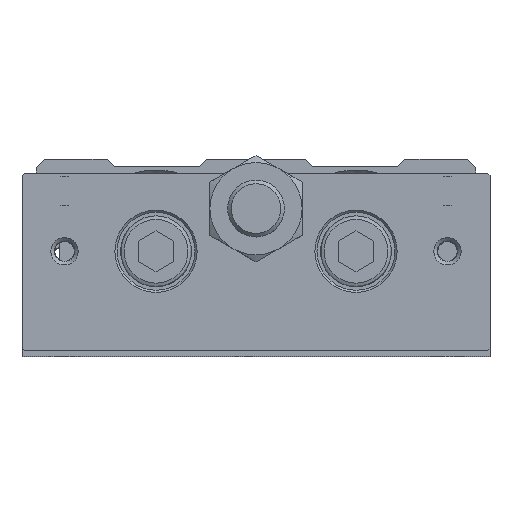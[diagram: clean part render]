
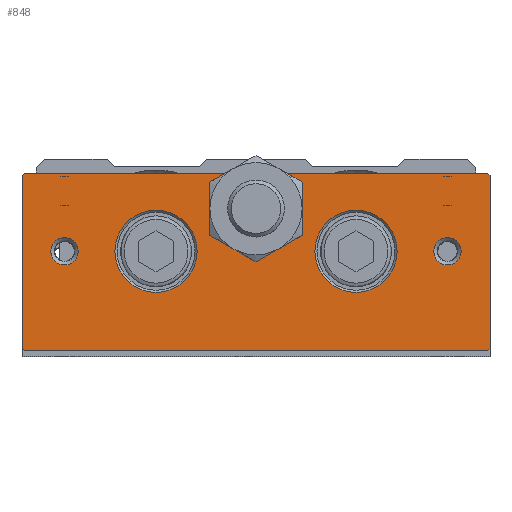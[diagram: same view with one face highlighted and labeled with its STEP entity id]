
A CAD part, top view. The second image highlights one B-rep face of the part: STEP entity #848.
In plain terms, the highlighted planar face has unit normal (0, 0, 1).
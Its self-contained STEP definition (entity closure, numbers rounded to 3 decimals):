
#629=CARTESIAN_POINT('',(-32.7,-14.5,270.));
#630=VERTEX_POINT('',#629);
#637=CARTESIAN_POINT('',(-33.0,-14.2,270.));
#638=VERTEX_POINT('',#637);
#639=CARTESIAN_POINT('',(-32.7,-14.5,270.));
#640=DIRECTION('',(-0.707,0.707,0.0));
#641=VECTOR('',#640,0.424);
#642=LINE('',#639,#641);
#643=EDGE_CURVE('',#630,#638,#642,.T.);
#660=CARTESIAN_POINT('',(-33.0,10.2,270.));
#661=VERTEX_POINT('',#660);
#662=CARTESIAN_POINT('',(-33.0,10.2,270.));
#663=DIRECTION('',(0.0,-1.0,0.0));
#664=VECTOR('',#663,24.4);
#665=LINE('',#662,#664);
#666=EDGE_CURVE('',#661,#638,#665,.T.);
#696=CARTESIAN_POINT('',(0.0,-14.5,270.));
#697=DIRECTION('',(0.0,0.0,1.0));
#698=DIRECTION('',(1.0,0.0,0.0));
#699=AXIS2_PLACEMENT_3D('',#696,#697,#698);
#700=PLANE('',#699);
#701=ORIENTED_EDGE('',*,*,#643,.F.);
#702=CARTESIAN_POINT('',(32.7,-14.5,270.));
#703=VERTEX_POINT('',#702);
#704=CARTESIAN_POINT('',(-32.7,-14.5,270.));
#705=DIRECTION('',(1.0,0.0,0.0));
#706=VECTOR('',#705,65.4);
#707=LINE('',#704,#706);
#708=EDGE_CURVE('',#630,#703,#707,.T.);
#709=ORIENTED_EDGE('',*,*,#708,.T.);
#710=CARTESIAN_POINT('',(33.0,-14.2,270.));
#711=VERTEX_POINT('',#710);
#712=CARTESIAN_POINT('',(33.0,-14.2,270.));
#713=DIRECTION('',(-0.707,-0.707,0.0));
#714=VECTOR('',#713,0.424);
#715=LINE('',#712,#714);
#716=EDGE_CURVE('',#711,#703,#715,.T.);
#717=ORIENTED_EDGE('',*,*,#716,.F.);
#718=CARTESIAN_POINT('',(33.0,10.2,270.));
#719=VERTEX_POINT('',#718);
#720=CARTESIAN_POINT('',(33.0,-14.2,270.));
#721=DIRECTION('',(0.0,1.0,0.0));
#722=VECTOR('',#721,24.4);
#723=LINE('',#720,#722);
#724=EDGE_CURVE('',#711,#719,#723,.T.);
#725=ORIENTED_EDGE('',*,*,#724,.T.);
#726=CARTESIAN_POINT('',(32.7,10.5,270.));
#727=VERTEX_POINT('',#726);
#728=CARTESIAN_POINT('',(32.7,10.5,270.));
#729=DIRECTION('',(0.707,-0.707,0.0));
#730=VECTOR('',#729,0.424);
#731=LINE('',#728,#730);
#732=EDGE_CURVE('',#727,#719,#731,.T.);
#733=ORIENTED_EDGE('',*,*,#732,.F.);
#734=CARTESIAN_POINT('',(4.153,10.5,270.));
#735=VERTEX_POINT('',#734);
#736=CARTESIAN_POINT('',(32.7,10.5,270.));
#737=DIRECTION('',(-1.0,0.0,0.0));
#738=VECTOR('',#737,28.547);
#739=LINE('',#736,#738);
#740=EDGE_CURVE('',#727,#735,#739,.T.);
#741=ORIENTED_EDGE('',*,*,#740,.T.);
#742=CARTESIAN_POINT('',(6.5,5.5,270.));
#743=VERTEX_POINT('',#742);
#744=CARTESIAN_POINT('',(0.0,5.5,270.));
#745=DIRECTION('',(0.0,0.0,1.0));
#746=DIRECTION('',(0.0,1.0,0.0));
#747=AXIS2_PLACEMENT_3D('',#744,#745,#746);
#748=CIRCLE('',#747,6.5);
#749=EDGE_CURVE('',#743,#735,#748,.T.);
#750=ORIENTED_EDGE('',*,*,#749,.F.);
#751=CARTESIAN_POINT('',(3.25,-0.129,270.));
#752=VERTEX_POINT('',#751);
#753=CARTESIAN_POINT('',(0.0,5.5,270.));
#754=DIRECTION('',(0.0,0.0,1.0));
#755=DIRECTION('',(0.0,1.0,0.0));
#756=AXIS2_PLACEMENT_3D('',#753,#754,#755);
#757=CIRCLE('',#756,6.5);
#758=EDGE_CURVE('',#752,#743,#757,.T.);
#759=ORIENTED_EDGE('',*,*,#758,.F.);
#760=CARTESIAN_POINT('',(-3.25,-0.129,270.));
#761=VERTEX_POINT('',#760);
#762=CARTESIAN_POINT('',(0.0,5.5,270.));
#763=DIRECTION('',(0.0,0.0,1.0));
#764=DIRECTION('',(0.0,1.0,0.0));
#765=AXIS2_PLACEMENT_3D('',#762,#763,#764);
#766=CIRCLE('',#765,6.5);
#767=EDGE_CURVE('',#761,#752,#766,.T.);
#768=ORIENTED_EDGE('',*,*,#767,.F.);
#769=CARTESIAN_POINT('',(-6.5,5.5,270.));
#770=VERTEX_POINT('',#769);
#771=CARTESIAN_POINT('',(0.0,5.5,270.));
#772=DIRECTION('',(0.0,0.0,1.0));
#773=DIRECTION('',(0.0,1.0,0.0));
#774=AXIS2_PLACEMENT_3D('',#771,#772,#773);
#775=CIRCLE('',#774,6.5);
#776=EDGE_CURVE('',#770,#761,#775,.T.);
#777=ORIENTED_EDGE('',*,*,#776,.F.);
#778=CARTESIAN_POINT('',(-4.153,10.5,270.));
#779=VERTEX_POINT('',#778);
#780=CARTESIAN_POINT('',(0.0,5.5,270.));
#781=DIRECTION('',(0.0,0.0,1.0));
#782=DIRECTION('',(0.0,1.0,0.0));
#783=AXIS2_PLACEMENT_3D('',#780,#781,#782);
#784=CIRCLE('',#783,6.5);
#785=EDGE_CURVE('',#779,#770,#784,.T.);
#786=ORIENTED_EDGE('',*,*,#785,.F.);
#787=CARTESIAN_POINT('',(-32.7,10.5,270.));
#788=VERTEX_POINT('',#787);
#789=CARTESIAN_POINT('',(-4.153,10.5,270.));
#790=DIRECTION('',(-1.0,0.0,0.0));
#791=VECTOR('',#790,28.547);
#792=LINE('',#789,#791);
#793=EDGE_CURVE('',#779,#788,#792,.T.);
#794=ORIENTED_EDGE('',*,*,#793,.T.);
#795=CARTESIAN_POINT('',(-33.0,10.2,270.));
#796=DIRECTION('',(0.707,0.707,0.0));
#797=VECTOR('',#796,0.424);
#798=LINE('',#795,#797);
#799=EDGE_CURVE('',#661,#788,#798,.T.);
#800=ORIENTED_EDGE('',*,*,#799,.F.);
#801=ORIENTED_EDGE('',*,*,#666,.T.);
#802=EDGE_LOOP('',(#701,#709,#717,#725,#733,#741,#750,#759,#768,#777,#786,#794,#800,#801));
#803=FACE_OUTER_BOUND('',#802,.T.);
#804=CARTESIAN_POINT('',(19.9,-0.5,270.));
#805=VERTEX_POINT('',#804);
#806=CARTESIAN_POINT('',(14.1,-0.5,270.));
#807=DIRECTION('',(0.0,0.0,1.0));
#808=DIRECTION('',(-1.0,0.0,0.0));
#809=AXIS2_PLACEMENT_3D('',#806,#807,#808);
#810=CIRCLE('',#809,5.8);
#811=EDGE_CURVE('',#805,#805,#810,.T.);
#812=ORIENTED_EDGE('',*,*,#811,.F.);
#813=EDGE_LOOP('',(#812));
#814=FACE_BOUND('',#813,.T.);
#815=CARTESIAN_POINT('',(28.925,-0.5,270.));
#816=VERTEX_POINT('',#815);
#817=CARTESIAN_POINT('',(27.,-0.5,270.));
#818=DIRECTION('',(0.0,0.0,1.0));
#819=DIRECTION('',(-1.0,0.0,0.0));
#820=AXIS2_PLACEMENT_3D('',#817,#818,#819);
#821=CIRCLE('',#820,1.925);
#822=EDGE_CURVE('',#816,#816,#821,.T.);
#823=ORIENTED_EDGE('',*,*,#822,.F.);
#824=EDGE_LOOP('',(#823));
#825=FACE_BOUND('',#824,.T.);
#826=CARTESIAN_POINT('',(-25.075,-0.5,270.));
#827=VERTEX_POINT('',#826);
#828=CARTESIAN_POINT('',(-27.0,-0.5,270.));
#829=DIRECTION('',(0.0,0.0,1.0));
#830=DIRECTION('',(-1.0,0.0,0.0));
#831=AXIS2_PLACEMENT_3D('',#828,#829,#830);
#832=CIRCLE('',#831,1.925);
#833=EDGE_CURVE('',#827,#827,#832,.T.);
#834=ORIENTED_EDGE('',*,*,#833,.F.);
#835=EDGE_LOOP('',(#834));
#836=FACE_BOUND('',#835,.T.);
#837=CARTESIAN_POINT('',(-8.3,-0.5,270.));
#838=VERTEX_POINT('',#837);
#839=CARTESIAN_POINT('',(-14.1,-0.5,270.));
#840=DIRECTION('',(0.0,0.0,1.0));
#841=DIRECTION('',(-1.0,0.0,0.0));
#842=AXIS2_PLACEMENT_3D('',#839,#840,#841);
#843=CIRCLE('',#842,5.8);
#844=EDGE_CURVE('',#838,#838,#843,.T.);
#845=ORIENTED_EDGE('',*,*,#844,.F.);
#846=EDGE_LOOP('',(#845));
#847=FACE_BOUND('',#846,.T.);
#848=ADVANCED_FACE('',(#803,#814,#825,#836,#847),#700,.T.);
